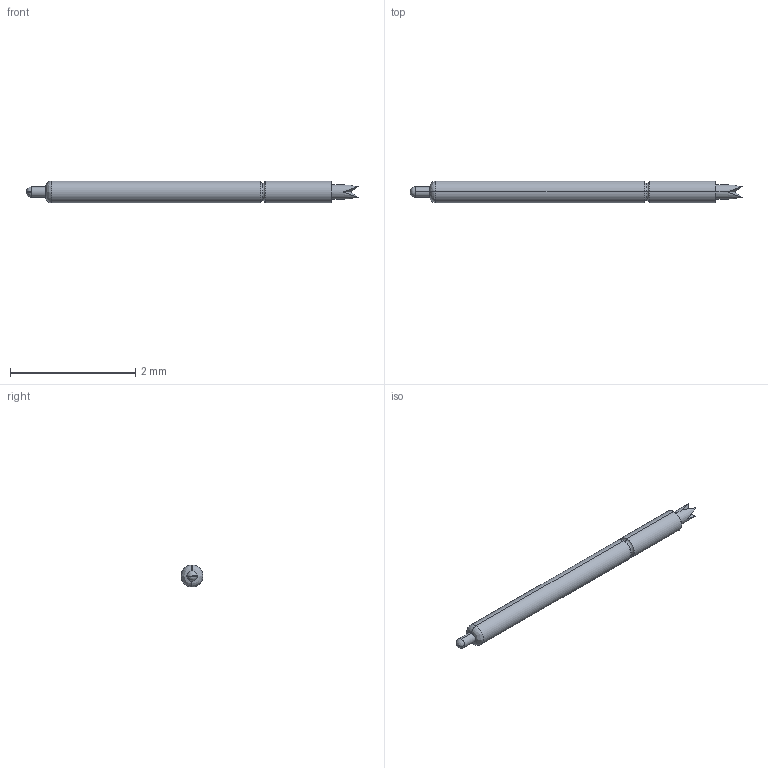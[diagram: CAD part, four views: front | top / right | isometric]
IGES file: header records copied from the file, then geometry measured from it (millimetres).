
Start section: SolidWorks IGES file using analytic representation for surfaces
Global section: file name: Z:\probe solid model mockups\Solidworks models\IGES Files\CSP5-18 IGES files\CSP5-18LJ Full.IGS; native system: SolidWorks 2006 by SolidWorks Corporation; preprocessor: SolidWorks 2006 by SolidWorks Corporation; author: tsakatani; date: 080108.142613; units: inch
Bounding box: 5.31 x 0.35 x 0.35 mm (x, y, z)
Surface area: 5.6 mm2 (no closed solid volume)
Topology: 0 solids, 0 shells, 25 faces, 146 edges, 144 vertices
Faces by surface type: bspline 15, revolution 10
